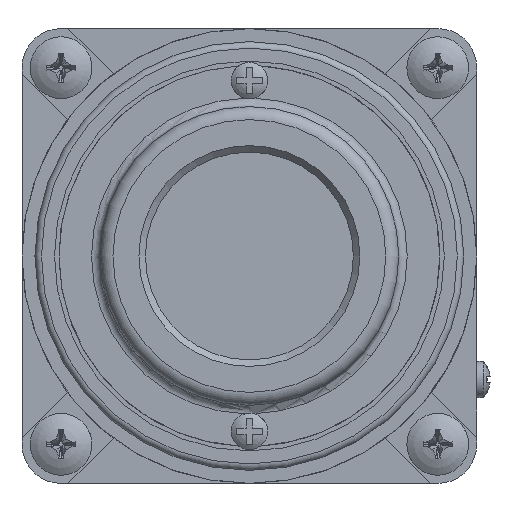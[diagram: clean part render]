
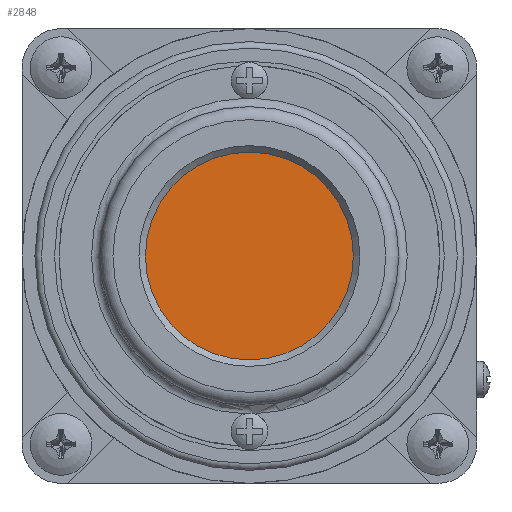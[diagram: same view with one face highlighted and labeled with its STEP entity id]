
A CAD part, left-side view. The second image highlights one B-rep face of the part: STEP entity #2848.
In plain terms, the highlighted planar face has unit normal (-1, 0, 0).
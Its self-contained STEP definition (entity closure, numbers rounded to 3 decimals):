
#1325=FACE_OUTER_BOUND('',#3773,.T.);
#2429=PLANE('',#8238);
#2848=ADVANCED_FACE('',(#1325),#2429,.T.);
#3773=EDGE_LOOP('',(#5381));
#5381=ORIENTED_EDGE('',*,*,#7030,.F.);
#6172=VERTEX_POINT('',#13144);
#7030=EDGE_CURVE('',#6172,#6172,#7428,.T.);
#7428=CIRCLE('',#8237,16.);
#8237=AXIS2_PLACEMENT_3D('',#13143,#9654,#9655);
#8238=AXIS2_PLACEMENT_3D('',#13145,#9656,#9657);
#9654=DIRECTION('',(1.,0.,0.));
#9655=DIRECTION('',(0.,0.,-1.));
#9656=DIRECTION('',(-1.,0.,0.));
#9657=DIRECTION('',(0.,0.,-1.));
#13143=CARTESIAN_POINT('',(-102.,0.,0.));
#13144=CARTESIAN_POINT('',(-102.,0.,-16.));
#13145=CARTESIAN_POINT('',(-102.,0.,0.));
